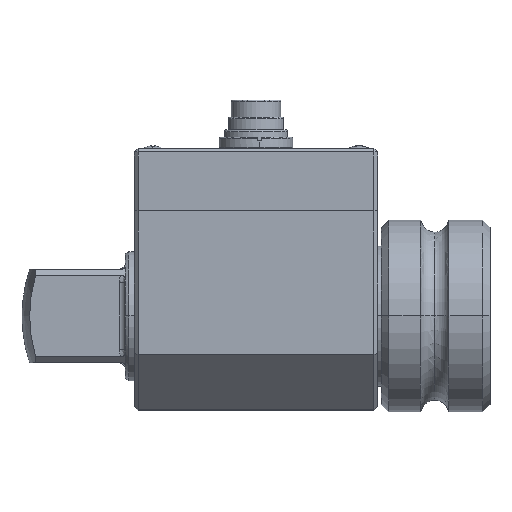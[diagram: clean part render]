
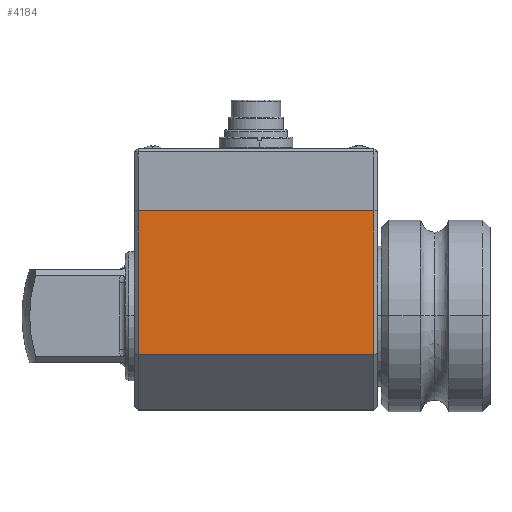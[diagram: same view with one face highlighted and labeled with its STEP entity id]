
A CAD part, top view. The second image highlights one B-rep face of the part: STEP entity #4184.
In plain terms, the highlighted planar face has unit normal (0, 0, 1).
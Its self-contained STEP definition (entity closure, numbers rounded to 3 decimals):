
#510 = EDGE_CURVE ( 'NONE', #3510, #5133, #10202, .T. ) ;
#929 = LINE ( 'NONE', #3290, #1315 ) ;
#955 = CARTESIAN_POINT ( 'NONE',  ( -65., -12., 26. ) ) ;
#1315 = VECTOR ( 'NONE', #8636, 1000. ) ;
#1535 = VERTEX_POINT ( 'NONE', #4421 ) ;
#1681 = VERTEX_POINT ( 'NONE', #4597 ) ;
#1968 = EDGE_CURVE ( 'NONE', #1681, #3510, #5576, .T. ) ;
#2167 = ORIENTED_EDGE ( 'NONE', *, *, #3230, .F. ) ;
#2222 = ORIENTED_EDGE ( 'NONE', *, *, #2726, .T. ) ;
#2466 = DIRECTION ( 'NONE',  ( 0., -1., 0. ) ) ;
#2623 = LINE ( 'NONE', #955, #3595 ) ;
#2726 = EDGE_CURVE ( 'NONE', #1535, #1681, #2623, .T. ) ;
#3043 = CARTESIAN_POINT ( 'NONE',  ( -1., -12., 26. ) ) ;
#3230 = EDGE_CURVE ( 'NONE', #1535, #5133, #929, .T. ) ;
#3290 = CARTESIAN_POINT ( 'NONE',  ( -100., 27., 26. ) ) ;
#3510 = VERTEX_POINT ( 'NONE', #3043 ) ;
#3595 = VECTOR ( 'NONE', #2466, 1000. ) ;
#3656 = DIRECTION ( 'NONE',  ( 1., 0., 0. ) ) ;
#4184 = ADVANCED_FACE ( 'NONE', ( #4619 ), #5364, .T. ) ;
#4421 = CARTESIAN_POINT ( 'NONE',  ( -65., 27., 26. ) ) ;
#4597 = CARTESIAN_POINT ( 'NONE',  ( -65., -12., 26. ) ) ;
#4619 = FACE_OUTER_BOUND ( 'NONE', #5895, .T. ) ;
#5133 = VERTEX_POINT ( 'NONE', #7428 ) ;
#5138 = DIRECTION ( 'NONE',  ( 0., -1., 0. ) ) ;
#5147 = DIRECTION ( 'NONE',  ( 0., 0., 1. ) ) ;
#5182 = CARTESIAN_POINT ( 'NONE',  ( -100., 27., 26. ) ) ;
#5364 = PLANE ( 'NONE',  #7173 ) ;
#5552 = VECTOR ( 'NONE', #3656, 1000. ) ;
#5576 = LINE ( 'NONE', #6939, #5552 ) ;
#5757 = ORIENTED_EDGE ( 'NONE', *, *, #510, .T. ) ;
#5895 = EDGE_LOOP ( 'NONE', ( #6787, #5757, #2167, #2222 ) ) ;
#6787 = ORIENTED_EDGE ( 'NONE', *, *, #1968, .T. ) ;
#6939 = CARTESIAN_POINT ( 'NONE',  ( -100., -12., 26. ) ) ;
#7127 = DIRECTION ( 'NONE',  ( 0., 1., 0. ) ) ;
#7138 = CARTESIAN_POINT ( 'NONE',  ( -1., 27., 26. ) ) ;
#7173 = AXIS2_PLACEMENT_3D ( 'NONE', #5182, #5147, #5138 ) ;
#7428 = CARTESIAN_POINT ( 'NONE',  ( -1., 27., 26. ) ) ;
#8533 = VECTOR ( 'NONE', #7127, 1000. ) ;
#8636 = DIRECTION ( 'NONE',  ( 1., 0., 0. ) ) ;
#10202 = LINE ( 'NONE', #7138, #8533 ) ;
